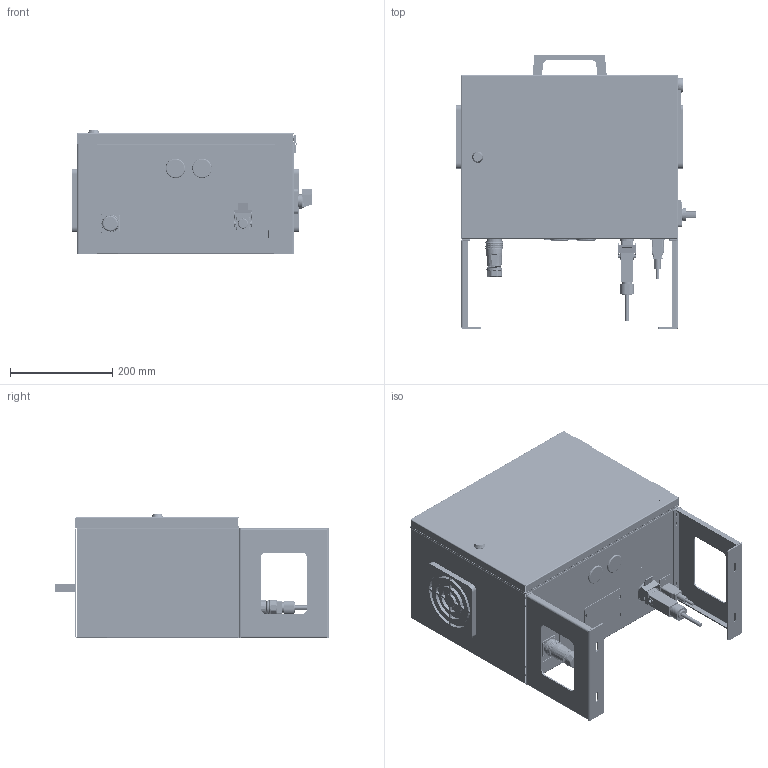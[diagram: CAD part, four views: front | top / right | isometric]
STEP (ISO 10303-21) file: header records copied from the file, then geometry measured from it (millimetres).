
FILE_DESCRIPTION (( 'STEP AP214' ), '1' );
FILE_NAME ('HRC-E06TL-A6ElfinControlBox_simplified_fromSLDPRT.STEP', '2022-10-10T09:35:05', ( '' ), ( '' ), 'SwSTEP 2.0', 'SolidWorks 2022', '' );
FILE_SCHEMA (( 'AUTOMOTIVE_DESIGN' ));
Length unit declared in the file: millimetre
Products named in the file (1): HRC-E06TL-A6ElfinControlBox_simplified_fromSLDPRT
Bounding box: 470.1 x 536 x 243.3 mm (x, y, z)
Volume: 2411298.8 mm3; surface area: 2061589.5 mm2
Topology: 49 solids, 54 shells, 11496 faces, 30879 edges, 20527 vertices
Faces by surface type: plane 6824, bspline 3222, cylinder 1314, cone 134, torus 2
Entity records: 671727 total; most frequent: CARTESIAN_POINT 280681, ORIENTED_EDGE 61752, DIRECTION 41038, EDGE_CURVE 30876, VERTEX_POINT 20526, LINE 19676, VECTOR 19676, EDGE_LOOP 12994
